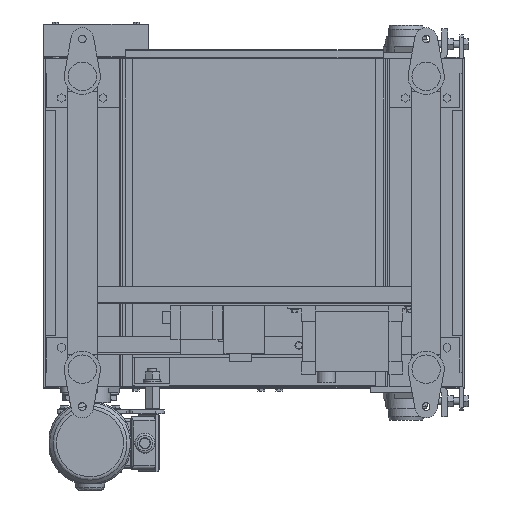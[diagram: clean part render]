
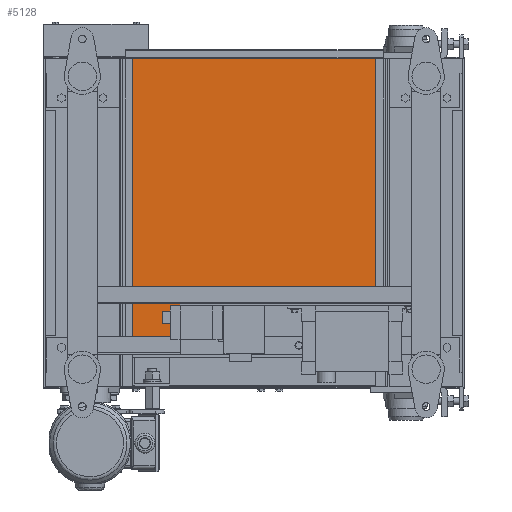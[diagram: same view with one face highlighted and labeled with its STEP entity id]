
A CAD part, front view. The second image highlights one B-rep face of the part: STEP entity #5128.
In plain terms, the highlighted planar face has unit normal (0, -1, 0).
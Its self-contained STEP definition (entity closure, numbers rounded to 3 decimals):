
#5128=ADVANCED_FACE('',(#27992),#27991,.F.);
#27991=PLANE('',#42398);
#27992=FACE_OUTER_BOUND('',#42399,.T.);
#42395=CARTESIAN_POINT('',(127.5,-165.,-221.));
#42396=DIRECTION('',(0.,1.,0.));
#42397=DIRECTION('',(0.,0.,1.));
#42398=AXIS2_PLACEMENT_3D('',#42395,#42396,#42397);
#42399=EDGE_LOOP('',(#55809,#55810,#55811,#55812));
#55809=ORIENTED_EDGE('',*,*,#62886,.F.);
#55810=ORIENTED_EDGE('',*,*,#62892,.F.);
#55811=ORIENTED_EDGE('',*,*,#62893,.F.);
#55812=ORIENTED_EDGE('',*,*,#62894,.F.);
#62886=EDGE_CURVE('',#102611,#102612,#102613,.T.);
#62892=EDGE_CURVE('',#102650,#102611,#102651,.T.);
#62893=EDGE_CURVE('',#102657,#102650,#102658,.T.);
#62894=EDGE_CURVE('',#102612,#102657,#102664,.T.);
#102611=VERTEX_POINT('',#130022);
#102612=VERTEX_POINT('',#130023);
#102613=LINE('',#130024,#130025);
#102650=VERTEX_POINT('',#130043);
#102651=LINE('',#130044,#130045);
#102657=VERTEX_POINT('',#130047);
#102658=LINE('',#130048,#130049);
#102664=LINE('',#130051,#130052);
#130022=CARTESIAN_POINT('',(137.5,-165.,-211.));
#130023=CARTESIAN_POINT('',(137.5,-165.,278.2));
#130024=CARTESIAN_POINT('',(137.5,-165.,-211.));
#130025=VECTOR('',#130026,489.2);
#130026=DIRECTION('',(0.,0.,1.));
#130043=CARTESIAN_POINT('',(572.5,-165.,-211.));
#130044=CARTESIAN_POINT('',(572.5,-165.,-211.));
#130045=VECTOR('',#130046,435.);
#130046=DIRECTION('',(-1.,0.,0.));
#130047=CARTESIAN_POINT('',(572.5,-165.,278.2));
#130048=CARTESIAN_POINT('',(572.5,-165.,278.2));
#130049=VECTOR('',#130050,489.2);
#130050=DIRECTION('',(0.,0.,-1.));
#130051=CARTESIAN_POINT('',(137.5,-165.,278.2));
#130052=VECTOR('',#130053,435.);
#130053=DIRECTION('',(1.,0.,0.));
